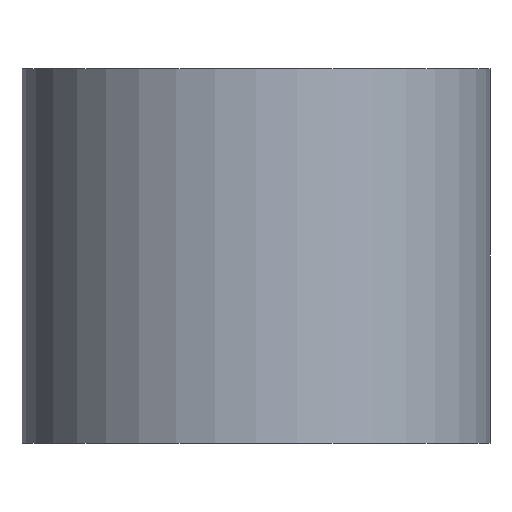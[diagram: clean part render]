
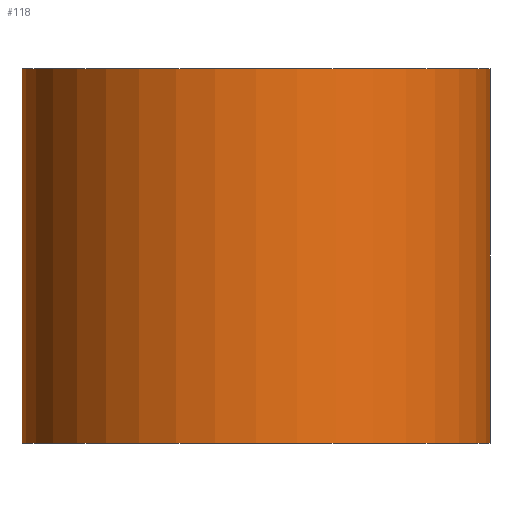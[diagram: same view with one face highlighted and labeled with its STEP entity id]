
A CAD part, front view. The second image highlights one B-rep face of the part: STEP entity #118.
In plain terms, the highlighted cylindrical face has radius 50 mm (diameter 100 mm), a partial arc.
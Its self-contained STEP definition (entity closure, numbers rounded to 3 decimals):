
#100=CYLINDRICAL_SURFACE('',#199,50.);
#104=FACE_OUTER_BOUND('',#132,.T.);
#107=LINE('',#257,#111);
#108=LINE('',#258,#112);
#111=VECTOR('',#228,1.);
#112=VECTOR('',#229,1.);
#118=ADVANCED_FACE('',(#104),#100,.T.);
#132=EDGE_LOOP('',(#153,#154,#155,#156));
#153=ORIENTED_EDGE('',*,*,#175,.F.);
#154=ORIENTED_EDGE('',*,*,#174,.T.);
#155=ORIENTED_EDGE('',*,*,#176,.T.);
#156=ORIENTED_EDGE('',*,*,#165,.F.);
#157=VERTEX_POINT('',#236);
#158=VERTEX_POINT('',#237);
#163=VERTEX_POINT('',#253);
#164=VERTEX_POINT('',#254);
#165=EDGE_CURVE('',#157,#158,#177,.T.);
#174=EDGE_CURVE('',#164,#163,#184,.T.);
#175=EDGE_CURVE('',#164,#157,#107,.T.);
#176=EDGE_CURVE('',#163,#158,#108,.T.);
#177=CIRCLE('',#186,50.);
#184=CIRCLE('',#196,50.);
#186=AXIS2_PLACEMENT_3D('',#235,#202,#203);
#196=AXIS2_PLACEMENT_3D('',#255,#224,#225);
#199=AXIS2_PLACEMENT_3D('',#260,#232,#233);
#202=DIRECTION('',(0.,0.,1.));
#203=DIRECTION('',(0.,1.,0.));
#224=DIRECTION('',(0.,0.,1.));
#225=DIRECTION('',(0.,1.,0.));
#228=DIRECTION('',(0.,0.,1.));
#229=DIRECTION('',(0.,0.,1.));
#232=DIRECTION('',(0.,0.,1.));
#233=DIRECTION('',(0.,-1.,0.));
#235=CARTESIAN_POINT('',(0.,0.,80.));
#236=CARTESIAN_POINT('',(-50.,0.,80.));
#237=CARTESIAN_POINT('',(50.,0.,80.));
#253=CARTESIAN_POINT('',(50.,0.,0.));
#254=CARTESIAN_POINT('',(-50.,0.,0.));
#255=CARTESIAN_POINT('',(0.,0.,0.));
#257=CARTESIAN_POINT('',(-50.,0.,80.));
#258=CARTESIAN_POINT('',(50.,0.,80.));
#260=CARTESIAN_POINT('',(0.,0.,0.));
